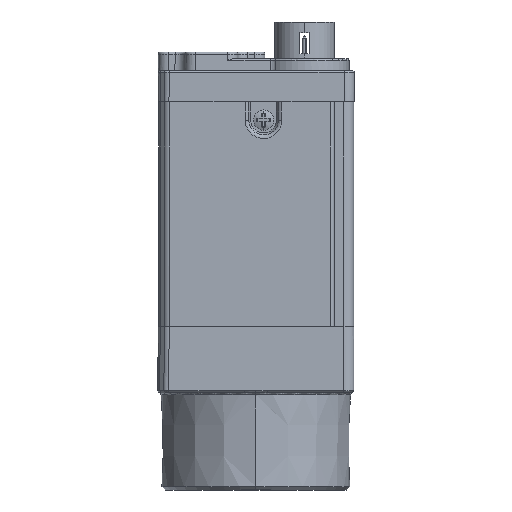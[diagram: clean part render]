
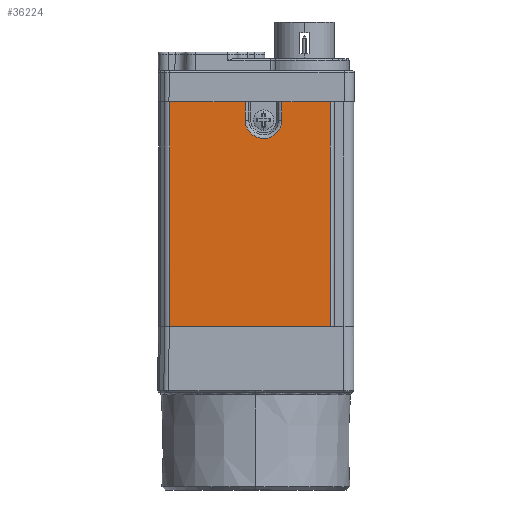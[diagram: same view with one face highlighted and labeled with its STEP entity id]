
A CAD part, left-side view. The second image highlights one B-rep face of the part: STEP entity #36224.
In plain terms, the highlighted planar face has unit normal (-1, 0, 0).
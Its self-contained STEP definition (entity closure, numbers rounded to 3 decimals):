
#635=CARTESIAN_POINT('',(-14.5,12.786,37.4));
#649=DIRECTION('',(0.,1.,0.));
#650=VECTOR('',#649,7.142);
#651=CARTESIAN_POINT('',(-14.5,-10.95,37.4));
#652=LINE('',#651,#650);
#657=DIRECTION('',(0.,1.,0.));
#658=VECTOR('',#657,11.177);
#659=CARTESIAN_POINT('',(-14.5,1.608,37.4));
#660=LINE('',#659,#658);
#4587=DIRECTION('',(0.,-1.,0.));
#4588=VECTOR('',#4587,23.736);
#4589=CARTESIAN_POINT('',(-14.5,12.786,4.2));
#4590=LINE('',#4589,#4588);
#4614=DIRECTION('',(0.,0.,1.));
#4615=VECTOR('',#4614,33.2);
#4616=CARTESIAN_POINT('',(-14.5,12.786,4.2));
#4617=LINE('',#4616,#4615);
#4618=CARTESIAN_POINT('',(-14.5,-1.1,34.7));
#4619=DIRECTION('',(-1.,0.,0.));
#4620=DIRECTION('',(0.,1.,0.));
#4621=AXIS2_PLACEMENT_3D('',#4618,#4619,#4620);
#4623=CARTESIAN_POINT('',(-14.5,-1.1,34.7));
#4624=DIRECTION('',(-1.,0.,0.));
#4625=DIRECTION('',(0.,0.995,-0.102));
#4626=AXIS2_PLACEMENT_3D('',#4623,#4624,#4625);
#4628=DIRECTION('',(0.,0.,1.));
#4629=VECTOR('',#4628,33.2);
#4630=CARTESIAN_POINT('',(-14.5,-10.95,4.2));
#4631=LINE('',#4630,#4629);
#4661=DIRECTION('',(0.,0.,1.));
#4662=VECTOR('',#4661,2.7);
#4663=CARTESIAN_POINT('',(-14.5,1.608,34.7));
#4664=LINE('',#4663,#4662);
#4700=DIRECTION('',(0.,0.,-1.));
#4701=VECTOR('',#4700,2.7);
#4702=CARTESIAN_POINT('',(-14.5,-3.808,37.4));
#4703=LINE('',#4702,#4701);
#24270=CARTESIAN_POINT('',(-14.5,12.786,4.2));
#24271=VERTEX_POINT('',#24270);
#24272=CARTESIAN_POINT('',(-14.5,1.608,34.7));
#24273=CARTESIAN_POINT('',(-14.5,1.594,34.423));
#24274=VERTEX_POINT('',#24272);
#24275=VERTEX_POINT('',#24273);
#24276=CARTESIAN_POINT('',(-14.5,-3.808,34.7));
#24277=VERTEX_POINT('',#24276);
#24316=CARTESIAN_POINT('',(-14.5,-10.95,4.2));
#24317=VERTEX_POINT('',#24316);
#26687=VERTEX_POINT('',#635);
#26688=CARTESIAN_POINT('',(-14.5,-10.95,37.4));
#26689=CARTESIAN_POINT('',(-14.5,-3.808,37.4));
#26690=VERTEX_POINT('',#26688);
#26691=VERTEX_POINT('',#26689);
#26692=CARTESIAN_POINT('',(-14.5,1.608,37.4));
#26693=VERTEX_POINT('',#26692);
#36203=CARTESIAN_POINT('',(-14.5,0.918,20.8));
#36204=DIRECTION('',(1.,0.,0.));
#36205=DIRECTION('',(0.,1.,0.));
#36206=AXIS2_PLACEMENT_3D('',#36203,#36204,#36205);
#36207=PLANE('',#36206);
#36208=ORIENTED_EDGE('',*,*,#27808,.F.);
#36210=ORIENTED_EDGE('',*,*,#36209,.F.);
#36211=ORIENTED_EDGE('',*,*,#36181,.F.);
#36212=ORIENTED_EDGE('',*,*,#27780,.T.);
#36213=ORIENTED_EDGE('',*,*,#27811,.F.);
#36215=ORIENTED_EDGE('',*,*,#36214,.F.);
#36217=ORIENTED_EDGE('',*,*,#36216,.T.);
#36219=ORIENTED_EDGE('',*,*,#36218,.T.);
#36221=ORIENTED_EDGE('',*,*,#36220,.F.);
#36222=EDGE_LOOP('',(#36208,#36210,#36211,#36212,#36213,#36215,#36217,#36219,
#36221));
#36223=FACE_OUTER_BOUND('',#36222,.F.);
#36224=ADVANCED_FACE('',(#36223),#36207,.F.);
#4622=CIRCLE('',#4621,2.708);
#4627=CIRCLE('',#4626,2.708);
#27780=EDGE_CURVE('',#24271,#26687,#4617,.T.);
#27808=EDGE_CURVE('',#26690,#26691,#652,.T.);
#27811=EDGE_CURVE('',#26693,#26687,#660,.T.);
#36181=EDGE_CURVE('',#24271,#24317,#4590,.T.);
#36209=EDGE_CURVE('',#24317,#26690,#4631,.T.);
#36214=EDGE_CURVE('',#24274,#26693,#4664,.T.);
#36216=EDGE_CURVE('',#24274,#24275,#4622,.T.);
#36218=EDGE_CURVE('',#24275,#24277,#4627,.T.);
#36220=EDGE_CURVE('',#26691,#24277,#4703,.T.);
